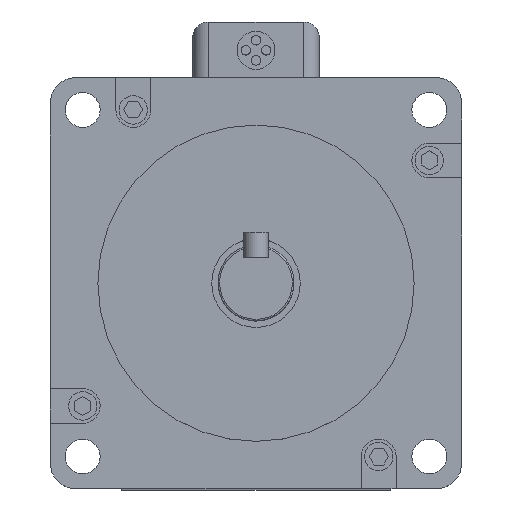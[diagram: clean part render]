
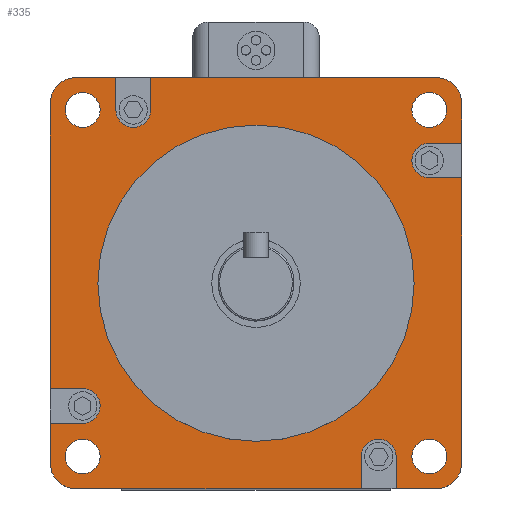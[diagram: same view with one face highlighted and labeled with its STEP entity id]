
A CAD part, top view. The second image highlights one B-rep face of the part: STEP entity #335.
In plain terms, the highlighted planar face has unit normal (0, 0, 1).
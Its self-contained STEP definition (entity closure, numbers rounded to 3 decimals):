
#177=FACE_BOUND('',#720,.T.);
#178=FACE_BOUND('',#721,.T.);
#179=FACE_BOUND('',#722,.T.);
#180=FACE_BOUND('',#723,.T.);
#181=FACE_BOUND('',#724,.T.);
#182=FACE_BOUND('',#725,.T.);
#259=CIRCLE('',#2736,5.5);
#260=CIRCLE('',#2737,5.5);
#261=CIRCLE('',#2738,50.);
#262=CIRCLE('',#2739,5.5);
#263=CIRCLE('',#2740,5.5);
#264=CIRCLE('',#2741,8.);
#265=CIRCLE('',#2742,5.5);
#266=CIRCLE('',#2743,8.);
#267=CIRCLE('',#2744,5.5);
#268=CIRCLE('',#2745,8.);
#269=CIRCLE('',#2746,5.5);
#270=CIRCLE('',#2747,8.);
#271=CIRCLE('',#2748,5.5);
#335=ADVANCED_FACE('',(#177,#178,#179,#180,#181,#182),#488,.T.);
#488=PLANE('',#2749);
#720=EDGE_LOOP('',(#956));
#721=EDGE_LOOP('',(#957));
#722=EDGE_LOOP('',(#958));
#723=EDGE_LOOP('',(#959));
#724=EDGE_LOOP('',(#960));
#725=EDGE_LOOP('',(#961,#962,#963,#964,#965,#966,#967,#968,#969,#970,#971,
#972,#973,#974,#975,#976,#977,#978,#979,#980,#981,#982,#983,#984));
#956=ORIENTED_EDGE('',*,*,#1901,.T.);
#957=ORIENTED_EDGE('',*,*,#1902,.F.);
#958=ORIENTED_EDGE('',*,*,#1903,.F.);
#959=ORIENTED_EDGE('',*,*,#1904,.F.);
#960=ORIENTED_EDGE('',*,*,#1905,.F.);
#961=ORIENTED_EDGE('',*,*,#1906,.T.);
#962=ORIENTED_EDGE('',*,*,#1907,.T.);
#963=ORIENTED_EDGE('',*,*,#1908,.T.);
#964=ORIENTED_EDGE('',*,*,#1909,.F.);
#965=ORIENTED_EDGE('',*,*,#1910,.F.);
#966=ORIENTED_EDGE('',*,*,#1911,.F.);
#967=ORIENTED_EDGE('',*,*,#1912,.T.);
#968=ORIENTED_EDGE('',*,*,#1913,.T.);
#969=ORIENTED_EDGE('',*,*,#1914,.T.);
#970=ORIENTED_EDGE('',*,*,#1915,.F.);
#971=ORIENTED_EDGE('',*,*,#1916,.F.);
#972=ORIENTED_EDGE('',*,*,#1917,.F.);
#973=ORIENTED_EDGE('',*,*,#1918,.T.);
#974=ORIENTED_EDGE('',*,*,#1919,.T.);
#975=ORIENTED_EDGE('',*,*,#1920,.T.);
#976=ORIENTED_EDGE('',*,*,#1921,.T.);
#977=ORIENTED_EDGE('',*,*,#1922,.T.);
#978=ORIENTED_EDGE('',*,*,#1923,.T.);
#979=ORIENTED_EDGE('',*,*,#1924,.T.);
#980=ORIENTED_EDGE('',*,*,#1925,.T.);
#981=ORIENTED_EDGE('',*,*,#1926,.T.);
#982=ORIENTED_EDGE('',*,*,#1927,.F.);
#983=ORIENTED_EDGE('',*,*,#1928,.F.);
#984=ORIENTED_EDGE('',*,*,#1929,.F.);
#1658=VERTEX_POINT('',#3807);
#1659=VERTEX_POINT('',#3809);
#1660=VERTEX_POINT('',#3811);
#1661=VERTEX_POINT('',#3813);
#1662=VERTEX_POINT('',#3815);
#1663=VERTEX_POINT('',#3817);
#1664=VERTEX_POINT('',#3818);
#1665=VERTEX_POINT('',#3820);
#1666=VERTEX_POINT('',#3822);
#1667=VERTEX_POINT('',#3824);
#1668=VERTEX_POINT('',#3826);
#1669=VERTEX_POINT('',#3828);
#1670=VERTEX_POINT('',#3830);
#1671=VERTEX_POINT('',#3832);
#1672=VERTEX_POINT('',#3834);
#1673=VERTEX_POINT('',#3836);
#1674=VERTEX_POINT('',#3838);
#1675=VERTEX_POINT('',#3840);
#1676=VERTEX_POINT('',#3842);
#1677=VERTEX_POINT('',#3844);
#1678=VERTEX_POINT('',#3846);
#1679=VERTEX_POINT('',#3848);
#1680=VERTEX_POINT('',#3850);
#1681=VERTEX_POINT('',#3852);
#1682=VERTEX_POINT('',#3854);
#1683=VERTEX_POINT('',#3856);
#1684=VERTEX_POINT('',#3858);
#1685=VERTEX_POINT('',#3860);
#1686=VERTEX_POINT('',#3862);
#1901=EDGE_CURVE('',#1658,#1658,#259,.T.);
#1902=EDGE_CURVE('',#1659,#1659,#260,.T.);
#1903=EDGE_CURVE('',#1660,#1660,#261,.T.);
#1904=EDGE_CURVE('',#1661,#1661,#262,.T.);
#1905=EDGE_CURVE('',#1662,#1662,#263,.T.);
#1906=EDGE_CURVE('',#1663,#1664,#2235,.T.);
#1907=EDGE_CURVE('',#1664,#1665,#264,.T.);
#1908=EDGE_CURVE('',#1665,#1666,#2236,.T.);
#1909=EDGE_CURVE('',#1667,#1666,#2237,.T.);
#1910=EDGE_CURVE('',#1668,#1667,#265,.T.);
#1911=EDGE_CURVE('',#1669,#1668,#2238,.T.);
#1912=EDGE_CURVE('',#1669,#1670,#2239,.T.);
#1913=EDGE_CURVE('',#1670,#1671,#266,.T.);
#1914=EDGE_CURVE('',#1671,#1672,#2240,.T.);
#1915=EDGE_CURVE('',#1673,#1672,#2241,.T.);
#1916=EDGE_CURVE('',#1674,#1673,#267,.T.);
#1917=EDGE_CURVE('',#1675,#1674,#2242,.T.);
#1918=EDGE_CURVE('',#1675,#1676,#2243,.T.);
#1919=EDGE_CURVE('',#1676,#1677,#268,.T.);
#1920=EDGE_CURVE('',#1677,#1678,#2244,.T.);
#1921=EDGE_CURVE('',#1678,#1679,#2245,.T.);
#1922=EDGE_CURVE('',#1679,#1680,#269,.T.);
#1923=EDGE_CURVE('',#1680,#1681,#2246,.T.);
#1924=EDGE_CURVE('',#1681,#1682,#2247,.T.);
#1925=EDGE_CURVE('',#1682,#1683,#270,.T.);
#1926=EDGE_CURVE('',#1683,#1684,#2248,.T.);
#1927=EDGE_CURVE('',#1685,#1684,#2249,.T.);
#1928=EDGE_CURVE('',#1686,#1685,#271,.T.);
#1929=EDGE_CURVE('',#1663,#1686,#2250,.T.);
#2235=LINE('',#3816,#2491);
#2236=LINE('',#3821,#2492);
#2237=LINE('',#3823,#2493);
#2238=LINE('',#3827,#2494);
#2239=LINE('',#3829,#2495);
#2240=LINE('',#3833,#2496);
#2241=LINE('',#3835,#2497);
#2242=LINE('',#3839,#2498);
#2243=LINE('',#3841,#2499);
#2244=LINE('',#3845,#2500);
#2245=LINE('',#3847,#2501);
#2246=LINE('',#3851,#2502);
#2247=LINE('',#3853,#2503);
#2248=LINE('',#3857,#2504);
#2249=LINE('',#3859,#2505);
#2250=LINE('',#3863,#2506);
#2491=VECTOR('',#3050,1.);
#2492=VECTOR('',#3053,1.);
#2493=VECTOR('',#3054,1.);
#2494=VECTOR('',#3057,1.);
#2495=VECTOR('',#3058,1.);
#2496=VECTOR('',#3061,1.);
#2497=VECTOR('',#3062,1.);
#2498=VECTOR('',#3065,1.);
#2499=VECTOR('',#3066,1.);
#2500=VECTOR('',#3069,1.);
#2501=VECTOR('',#3070,1.);
#2502=VECTOR('',#3073,1.);
#2503=VECTOR('',#3074,1.);
#2504=VECTOR('',#3077,1.);
#2505=VECTOR('',#3078,1.);
#2506=VECTOR('',#3081,1.);
#2736=AXIS2_PLACEMENT_3D('',#3806,#3040,#3041);
#2737=AXIS2_PLACEMENT_3D('',#3808,#3042,#3043);
#2738=AXIS2_PLACEMENT_3D('',#3810,#3044,#3045);
#2739=AXIS2_PLACEMENT_3D('',#3812,#3046,#3047);
#2740=AXIS2_PLACEMENT_3D('',#3814,#3048,#3049);
#2741=AXIS2_PLACEMENT_3D('',#3819,#3051,#3052);
#2742=AXIS2_PLACEMENT_3D('',#3825,#3055,#3056);
#2743=AXIS2_PLACEMENT_3D('',#3831,#3059,#3060);
#2744=AXIS2_PLACEMENT_3D('',#3837,#3063,#3064);
#2745=AXIS2_PLACEMENT_3D('',#3843,#3067,#3068);
#2746=AXIS2_PLACEMENT_3D('',#3849,#3071,#3072);
#2747=AXIS2_PLACEMENT_3D('',#3855,#3075,#3076);
#2748=AXIS2_PLACEMENT_3D('',#3861,#3079,#3080);
#2749=AXIS2_PLACEMENT_3D('',#3864,#3082,#3083);
#3040=DIRECTION('',(0.,0.,-1.));
#3041=DIRECTION('',(1.,0.,0.));
#3042=DIRECTION('',(0.,0.,1.));
#3043=DIRECTION('',(1.,0.,0.));
#3044=DIRECTION('',(0.,0.,1.));
#3045=DIRECTION('',(1.,0.,0.));
#3046=DIRECTION('',(0.,0.,1.));
#3047=DIRECTION('',(1.,0.,0.));
#3048=DIRECTION('',(0.,0.,1.));
#3049=DIRECTION('',(1.,0.,0.));
#3050=DIRECTION('',(-1.,0.,0.));
#3051=DIRECTION('',(0.,0.,1.));
#3052=DIRECTION('',(1.,0.,0.));
#3053=DIRECTION('',(0.,-1.,0.));
#3054=DIRECTION('',(-1.,0.,0.));
#3055=DIRECTION('',(0.,0.,1.));
#3056=DIRECTION('',(0.,1.,0.));
#3057=DIRECTION('',(1.,0.,0.));
#3058=DIRECTION('',(0.,-1.,0.));
#3059=DIRECTION('',(0.,0.,1.));
#3060=DIRECTION('',(1.,0.,0.));
#3061=DIRECTION('',(1.,0.,0.));
#3062=DIRECTION('',(0.,-1.,0.));
#3063=DIRECTION('',(0.,0.,1.));
#3064=DIRECTION('',(-1.,0.,0.));
#3065=DIRECTION('',(0.,1.,0.));
#3066=DIRECTION('',(1.,0.,0.));
#3067=DIRECTION('',(0.,0.,1.));
#3068=DIRECTION('',(1.,0.,0.));
#3069=DIRECTION('',(0.,1.,0.));
#3070=DIRECTION('',(-1.,0.,0.));
#3071=DIRECTION('',(0.,0.,-1.));
#3072=DIRECTION('',(0.,-1.,0.));
#3073=DIRECTION('',(1.,0.,0.));
#3074=DIRECTION('',(0.,1.,0.));
#3075=DIRECTION('',(0.,0.,1.));
#3076=DIRECTION('',(1.,0.,0.));
#3077=DIRECTION('',(-1.,0.,0.));
#3078=DIRECTION('',(0.,1.,0.));
#3079=DIRECTION('',(0.,0.,1.));
#3080=DIRECTION('',(1.,0.,0.));
#3081=DIRECTION('',(0.,-1.,0.));
#3082=DIRECTION('',(0.,0.,1.));
#3083=DIRECTION('',(1.,0.,0.));
#3806=CARTESIAN_POINT('',(-54.8,-54.8,0.));
#3807=CARTESIAN_POINT('',(-49.3,-54.8,0.));
#3808=CARTESIAN_POINT('',(54.8,54.8,0.));
#3809=CARTESIAN_POINT('',(60.3,54.8,0.));
#3810=CARTESIAN_POINT('',(0.,0.,0.));
#3811=CARTESIAN_POINT('',(50.,0.,0.));
#3812=CARTESIAN_POINT('',(54.8,-54.8,0.));
#3813=CARTESIAN_POINT('',(60.3,-54.8,0.));
#3814=CARTESIAN_POINT('',(-54.8,54.8,0.));
#3815=CARTESIAN_POINT('',(-49.3,54.8,0.));
#3816=CARTESIAN_POINT('',(65.,65.,0.));
#3817=CARTESIAN_POINT('',(-44.3,65.,0.));
#3818=CARTESIAN_POINT('',(-57.,65.,0.));
#3819=CARTESIAN_POINT('',(-57.,57.,0.));
#3820=CARTESIAN_POINT('',(-65.,57.,0.));
#3821=CARTESIAN_POINT('',(-65.,65.,0.));
#3822=CARTESIAN_POINT('',(-65.,-33.3,0.));
#3823=CARTESIAN_POINT('',(-54.8,-33.3,0.));
#3824=CARTESIAN_POINT('',(-54.8,-33.3,0.));
#3825=CARTESIAN_POINT('',(-54.8,-38.8,0.));
#3826=CARTESIAN_POINT('',(-54.8,-44.3,0.));
#3827=CARTESIAN_POINT('',(-65.,-44.3,0.));
#3828=CARTESIAN_POINT('',(-65.,-44.3,0.));
#3829=CARTESIAN_POINT('',(-65.,65.,0.));
#3830=CARTESIAN_POINT('',(-65.,-57.,0.));
#3831=CARTESIAN_POINT('',(-57.,-57.,0.));
#3832=CARTESIAN_POINT('',(-57.,-65.,0.));
#3833=CARTESIAN_POINT('',(-65.,-65.,0.));
#3834=CARTESIAN_POINT('',(33.3,-65.,0.));
#3835=CARTESIAN_POINT('',(33.3,-54.8,0.));
#3836=CARTESIAN_POINT('',(33.3,-54.8,0.));
#3837=CARTESIAN_POINT('',(38.8,-54.8,0.));
#3838=CARTESIAN_POINT('',(44.3,-54.8,0.));
#3839=CARTESIAN_POINT('',(44.3,-65.,0.));
#3840=CARTESIAN_POINT('',(44.3,-65.,0.));
#3841=CARTESIAN_POINT('',(-65.,-65.,0.));
#3842=CARTESIAN_POINT('',(57.,-65.,0.));
#3843=CARTESIAN_POINT('',(57.,-57.,0.));
#3844=CARTESIAN_POINT('',(65.,-57.,0.));
#3845=CARTESIAN_POINT('',(65.,-65.,0.));
#3846=CARTESIAN_POINT('',(65.,33.3,0.));
#3847=CARTESIAN_POINT('',(65.,33.3,0.));
#3848=CARTESIAN_POINT('',(54.8,33.3,0.));
#3849=CARTESIAN_POINT('',(54.8,38.8,0.));
#3850=CARTESIAN_POINT('',(54.8,44.3,0.));
#3851=CARTESIAN_POINT('',(54.8,44.3,0.));
#3852=CARTESIAN_POINT('',(65.,44.3,0.));
#3853=CARTESIAN_POINT('',(65.,-65.,0.));
#3854=CARTESIAN_POINT('',(65.,57.,0.));
#3855=CARTESIAN_POINT('',(57.,57.,0.));
#3856=CARTESIAN_POINT('',(57.,65.,0.));
#3857=CARTESIAN_POINT('',(65.,65.,0.));
#3858=CARTESIAN_POINT('',(-33.3,65.,0.));
#3859=CARTESIAN_POINT('',(-33.3,54.8,0.));
#3860=CARTESIAN_POINT('',(-33.3,54.8,0.));
#3861=CARTESIAN_POINT('',(-38.8,54.8,0.));
#3862=CARTESIAN_POINT('',(-44.3,54.8,0.));
#3863=CARTESIAN_POINT('',(-44.3,65.,0.));
#3864=CARTESIAN_POINT('',(65.,-65.,0.));
